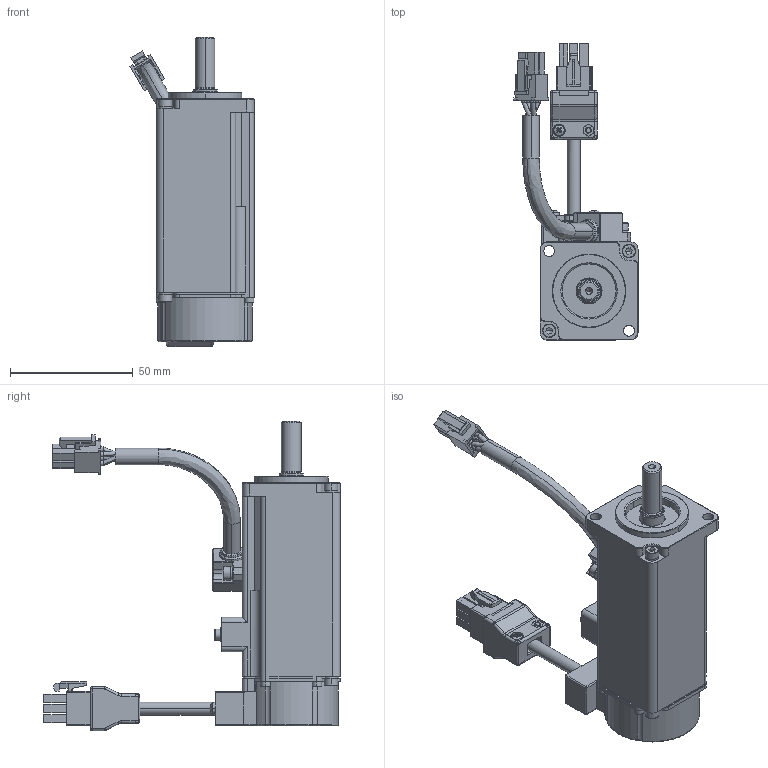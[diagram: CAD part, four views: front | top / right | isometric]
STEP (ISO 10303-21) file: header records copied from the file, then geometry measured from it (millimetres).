
FILE_DESCRIPTION (( 'STEP AP214' ), '1' );
FILE_NAME ('SME-L005B.STEP', '2020-05-18T08:18:42', ( '' ), ( '' ), 'SwSTEP 2.0', 'SolidWorks 2016', '' );
FILE_SCHEMA (( 'AUTOMOTIVE_DESIGN' ));
Length unit declared in the file: millimetre
Products named in the file (1): SME-L005B
Bounding box: 50.65 x 121 x 126.2 mm (x, y, z)
Volume: 172309.9 mm3; surface area: 44888 mm2
Topology: 60 solids, 60 shells, 1942 faces, 5038 edges, 3231 vertices
Faces by surface type: plane 981, cylinder 512, cone 222, bspline 218, torus 9
Entity records: 70539 total; most frequent: CARTESIAN_POINT 24447, ORIENTED_EDGE 9940, DIRECTION 8436, EDGE_CURVE 4970, VERTEX_POINT 3232, AXIS2_PLACEMENT_3D 2855, LINE 2726, VECTOR 2726
